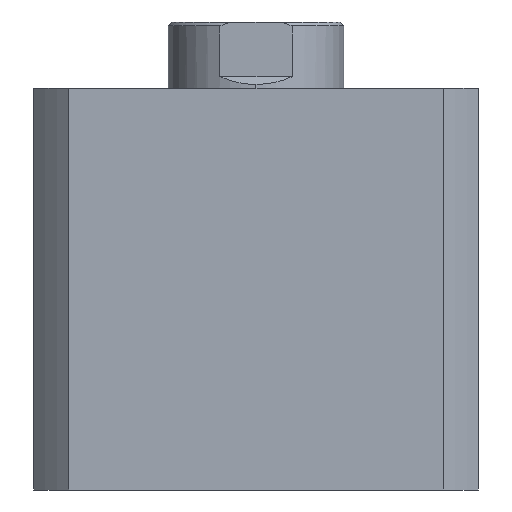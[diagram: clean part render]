
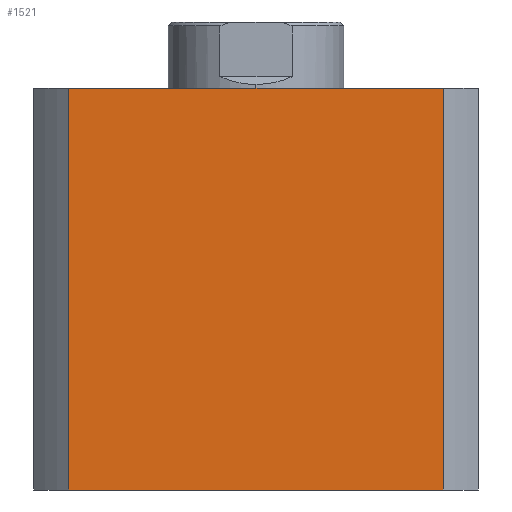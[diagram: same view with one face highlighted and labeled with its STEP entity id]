
A CAD part, left-side view. The second image highlights one B-rep face of the part: STEP entity #1521.
In plain terms, the highlighted planar face has unit normal (-1, 0, 0).
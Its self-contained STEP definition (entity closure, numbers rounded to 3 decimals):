
#240 = VERTEX_POINT ( 'NONE', #497 ) ;
#245 = VERTEX_POINT ( 'NONE', #491 ) ;
#271 = VERTEX_POINT ( 'NONE', #1130 ) ;
#284 = VERTEX_POINT ( 'NONE', #1117 ) ;
#491 = CARTESIAN_POINT ( 'NONE',  ( -57., 47.971, 103. ) ) ;
#497 = CARTESIAN_POINT ( 'NONE',  ( -57., 47.971, 0. ) ) ;
#639 = DIRECTION ( 'NONE',  ( 0., 0., -1. ) ) ;
#640 = DIRECTION ( 'NONE',  ( 1., 0., 0. ) ) ;
#643 = PLANE ( 'NONE',  #2966 ) ;
#648 = CARTESIAN_POINT ( 'NONE',  ( -57., 0., 103. ) ) ;
#1117 = CARTESIAN_POINT ( 'NONE',  ( -57., -47.971, 0. ) ) ;
#1130 = CARTESIAN_POINT ( 'NONE',  ( -57., -47.971, 103. ) ) ;
#1395 = EDGE_LOOP ( 'NONE', ( #2119, #2118, #2117, #2116 ) ) ;
#1521 = ADVANCED_FACE ( 'NONE', ( #4490 ), #643, .F. ) ;
#1754 = EDGE_CURVE ( 'NONE', #240, #284, #4835, .T. ) ;
#1791 = EDGE_CURVE ( 'NONE', #245, #240, #4885, .T. ) ;
#1793 = EDGE_CURVE ( 'NONE', #271, #284, #4889, .T. ) ;
#1794 = EDGE_CURVE ( 'NONE', #245, #271, #4890, .T. ) ;
#2116 = ORIENTED_EDGE ( 'NONE', *, *, #1791, .T. ) ;
#2117 = ORIENTED_EDGE ( 'NONE', *, *, #1794, .F. ) ;
#2118 = ORIENTED_EDGE ( 'NONE', *, *, #1793, .F. ) ;
#2119 = ORIENTED_EDGE ( 'NONE', *, *, #1754, .T. ) ;
#2966 = AXIS2_PLACEMENT_3D ( 'NONE', #648, #640, #639 ) ;
#3419 = DIRECTION ( 'NONE',  ( 0., -1., 0. ) ) ;
#3451 = DIRECTION ( 'NONE',  ( 0., 0., -1. ) ) ;
#3453 = CARTESIAN_POINT ( 'NONE',  ( -57., 47.971, 103. ) ) ;
#3463 = DIRECTION ( 'NONE',  ( 0., 0., -1. ) ) ;
#3467 = CARTESIAN_POINT ( 'NONE',  ( -57., -47.971, 103. ) ) ;
#3559 = CARTESIAN_POINT ( 'NONE',  ( -57., 0., 103. ) ) ;
#3671 = CARTESIAN_POINT ( 'NONE',  ( -57., 0., 0. ) ) ;
#3673 = DIRECTION ( 'NONE',  ( 0., -1., 0. ) ) ;
#4490 = FACE_OUTER_BOUND ( 'NONE', #1395, .T. ) ;
#4835 = LINE ( 'NONE', #3671, #4839 ) ;
#4839 = VECTOR ( 'NONE', #3673, 1000. ) ;
#4885 = LINE ( 'NONE', #3453, #4888 ) ;
#4888 = VECTOR ( 'NONE', #3451, 1000. ) ;
#4889 = LINE ( 'NONE', #3467, #4891 ) ;
#4890 = LINE ( 'NONE', #3559, #4893 ) ;
#4891 = VECTOR ( 'NONE', #3463, 1000. ) ;
#4893 = VECTOR ( 'NONE', #3419, 1000. ) ;
